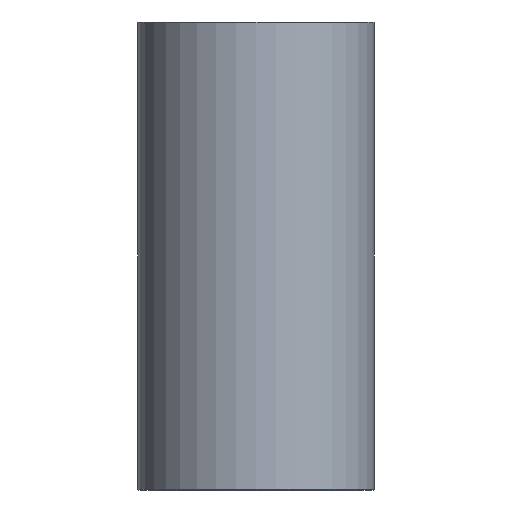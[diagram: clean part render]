
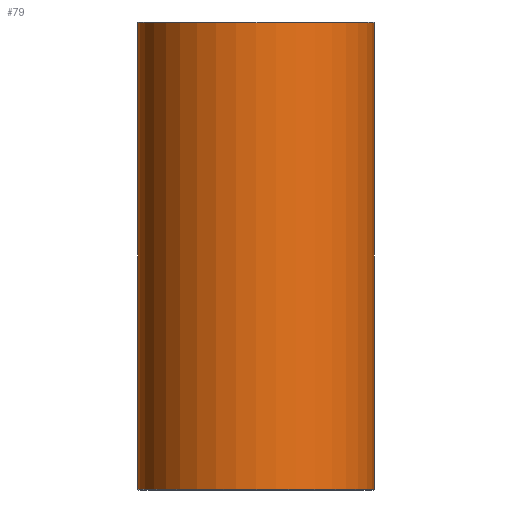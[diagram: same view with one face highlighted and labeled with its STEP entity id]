
A CAD part, front view. The second image highlights one B-rep face of the part: STEP entity #79.
In plain terms, the highlighted cylindrical face has radius 29 mm (diameter 58 mm), a full revolution.
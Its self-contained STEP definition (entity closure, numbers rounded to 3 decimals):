
#79=ADVANCED_FACE('',(#96,#97),#98,.T.);
#96=FACE_OUTER_BOUND('',#120,.T.);
#97=FACE_OUTER_BOUND('',#121,.T.);
#98=CYLINDRICAL_SURFACE('',#122,29.0);
#120=EDGE_LOOP('',(#152));
#121=EDGE_LOOP('',(#153));
#122=AXIS2_PLACEMENT_3D('',#154,#155,#156);
#152=ORIENTED_EDGE('',*,*,#178,.T.);
#153=ORIENTED_EDGE('',*,*,#177,.T.);
#154=CARTESIAN_POINT('',(0.0,0.0,115.0));
#155=DIRECTION('',(0.0,0.0,-1.0));
#156=DIRECTION('',(-1.0,0.0,0.0));
#177=EDGE_CURVE('',#190,#190,#191,.T.);
#178=EDGE_CURVE('',#192,#192,#193,.F.);
#190=VERTEX_POINT('',#206);
#191=CIRCLE('',#207,29.0);
#192=VERTEX_POINT('',#208);
#193=CIRCLE('',#209,29.0);
#206=CARTESIAN_POINT('',(29.0,0.0,0.2));
#207=AXIS2_PLACEMENT_3D('',#227,#228,#229);
#208=CARTESIAN_POINT('',(29.0,0.,114.8));
#209=AXIS2_PLACEMENT_3D('',#230,#231,#232);
#227=CARTESIAN_POINT('',(0.0,0.0,0.2));
#228=DIRECTION('',(0.0,0.0,1.0));
#229=DIRECTION('',(1.0,0.0,0.0));
#230=CARTESIAN_POINT('',(0.0,0.0,114.8));
#231=DIRECTION('',(0.0,0.0,1.0));
#232=DIRECTION('',(1.0,0.0,0.0));
